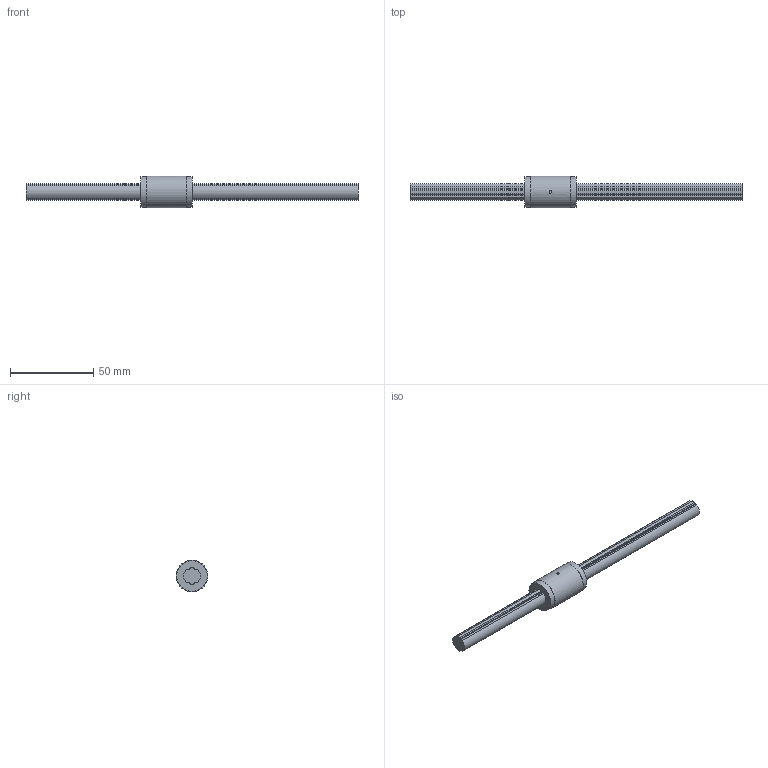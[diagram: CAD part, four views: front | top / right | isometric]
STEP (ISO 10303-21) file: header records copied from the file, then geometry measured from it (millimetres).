
FILE_DESCRIPTION(/* description */ ('STEP AP214'),/* implementation_level */ '2;1');
FILE_NAME(/* name */ 'LT10X+200L(00)',/* time_stamp */ '2024-09-05T14:15:08+02:00',/* author */ ('License CC BY-ND 4.0'),/* organization */ ('CADENAS'),/* preprocessor_version */ 'ST-DEVELOPER v19.3',/* originating_system */ 'PARTsolutions',/* authorisation */ ' ');
FILE_SCHEMA (('AUTOMOTIVE_DESIGN {1 0 10303 214 3 1 1}'));
Length unit declared in the file: millimetre
Products named in the file (3): LT10X+200L(00); 1LT10X 200Shaft; 1LT10X Cylindar
Assembly tree (2 placements, depth 2):
  LT10X+200L(00)
    1LT10X 200Shaft
    1LT10X Cylindar
Bounding box: 200 x 19 x 19 mm (x, y, z)
Volume: 21291.4 mm3; surface area: 9974 mm2
Topology: 2 solids, 2 shells, 64 faces, 173 edges, 115 vertices
Faces by surface type: cylinder 39, plane 25
Full cylindrical faces by diameter (mm): 1.5 x2, 18.6 x2, 19 x1
Entity records: 2129 total; most frequent: CARTESIAN_POINT 399, DIRECTION 366, ORIENTED_EDGE 332, EDGE_CURVE 166, AXIS2_PLACEMENT_3D 139, VERTEX_POINT 114, LINE 88, VECTOR 88
